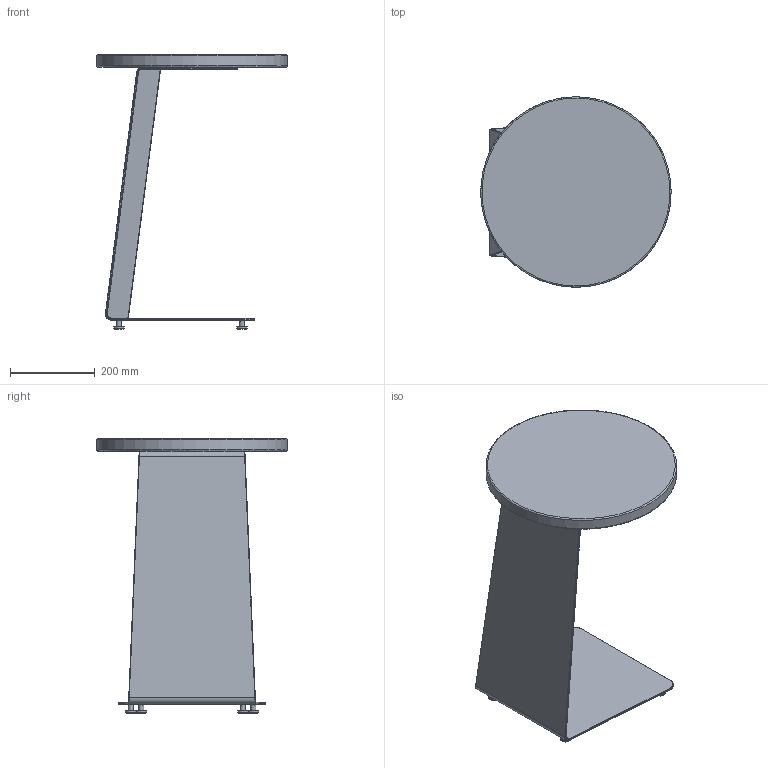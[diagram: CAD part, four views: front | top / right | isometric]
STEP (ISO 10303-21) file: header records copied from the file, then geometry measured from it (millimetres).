
FILE_DESCRIPTION(/* description */ (''),/* implementation_level */ '2;1');
FILE_NAME(/* name */ 'kinoshita_abord_at121',/* time_stamp */ '2025-07-23T13:21:42+09:00',/* author */ (''),/* organization */ (''),/* preprocessor_version */ 'ST-DEVELOPER v16.5',/* originating_system */ '',/* authorisation */ '');
FILE_SCHEMA (('AUTOMOTIVE_DESIGN'));
Length unit declared in the file: millimetre
Products named in the file (1): Document
Bounding box: 449.73 x 449.89 x 650 mm (x, y, z)
Volume: 6464479.5 mm3; surface area: 1106903.4 mm2
Topology: 10 solids, 10 shells, 126 faces, 268 edges, 154 vertices
Faces by surface type: bspline 114, plane 12
Entity records: 9816 total; most frequent: CARTESIAN_POINT 8346, ORIENTED_EDGE 520, EDGE_CURVE 260, VERTEX_POINT 154, EDGE_LOOP 140, ADVANCED_FACE 126, FACE_OUTER_BOUND 126, B_SPLINE_CURVE_WITH_KNOTS 40
